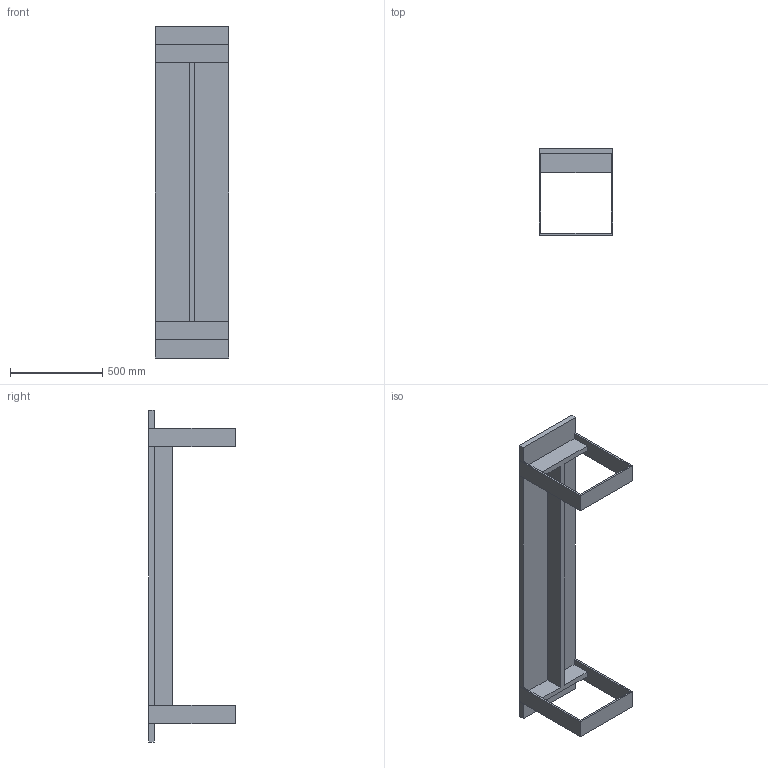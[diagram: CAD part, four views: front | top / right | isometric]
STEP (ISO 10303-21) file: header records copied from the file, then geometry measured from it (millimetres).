
FILE_DESCRIPTION (( 'STEP AP203' ), '1' );
FILE_NAME ('Haag bench 1800x400.STEP', '2019-04-02T14:05:36', ( '' ), ( '' ), 'SwSTEP 2.0', 'SolidWorks 2019', '' );
FILE_SCHEMA (( 'CONFIG_CONTROL_DESIGN' ));
Length unit declared in the file: millimetre
Products named in the file (1): Haag bench 1800x400
Bounding box: 400 x 470 x 1800 mm (x, y, z)
Volume: 30810000 mm3; surface area: 2911400 mm2
Topology: 4 solids, 4 shells, 56 faces, 144 edges, 96 vertices
Faces by surface type: plane 56
Entity records: 1747 total; most frequent: CARTESIAN_POINT 297, ORIENTED_EDGE 288, DIRECTION 258, LINE 144, EDGE_CURVE 144, VECTOR 144, VERTEX_POINT 96, EDGE_LOOP 60
